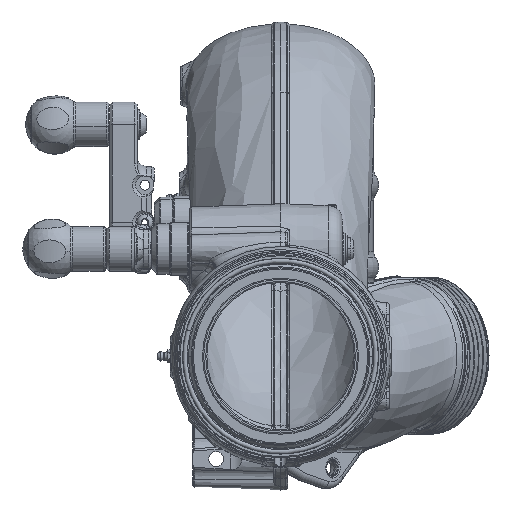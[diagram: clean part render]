
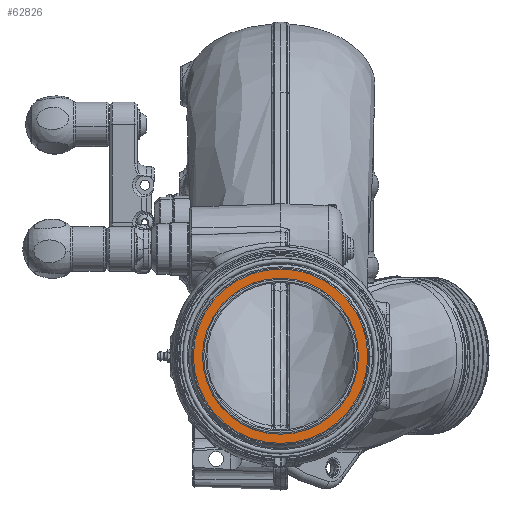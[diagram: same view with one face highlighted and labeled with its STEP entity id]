
A CAD part, front view. The second image highlights one B-rep face of the part: STEP entity #62826.
In plain terms, the highlighted planar face has unit normal (0, -1, 0).
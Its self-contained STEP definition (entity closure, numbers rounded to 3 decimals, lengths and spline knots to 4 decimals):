
#1622 = DIRECTION ( 'NONE',  ( 0., -1., 0. ) ) ;
#1706 = CARTESIAN_POINT ( 'NONE',  ( -2.3375, -8.4888, 0. ) ) ;
#6290 = DIRECTION ( 'NONE',  ( 1., 0., 0. ) ) ;
#33190 = EDGE_CURVE ( 'NONE', #70013, #84973, #118483, .T. ) ;
#33504 = CARTESIAN_POINT ( 'NONE',  ( -2.08, -8.4888, 0. ) ) ;
#34547 = DIRECTION ( 'NONE',  ( 1., 0., 0. ) ) ;
#37125 = CIRCLE ( 'NONE', #47854, 2.08 ) ;
#39320 = ORIENTED_EDGE ( 'NONE', *, *, #68936, .T. ) ;
#42453 = ORIENTED_EDGE ( 'NONE', *, *, #76039, .F. ) ;
#45008 = EDGE_LOOP ( 'NONE', ( #39320, #48705 ) ) ;
#47854 = AXIS2_PLACEMENT_3D ( 'NONE', #123716, #60041, #6290 ) ;
#48705 = ORIENTED_EDGE ( 'NONE', *, *, #33190, .T. ) ;
#52339 = CIRCLE ( 'NONE', #58997, 2.3375 ) ;
#55942 = AXIS2_PLACEMENT_3D ( 'NONE', #101092, #59309, #122042 ) ;
#56402 = CIRCLE ( 'NONE', #132444, 2.08 ) ;
#58997 = AXIS2_PLACEMENT_3D ( 'NONE', #62784, #117592, #84605 ) ;
#59309 = DIRECTION ( 'NONE',  ( 0., -1., 0. ) ) ;
#60041 = DIRECTION ( 'NONE',  ( 0., -1., 0. ) ) ;
#61768 = ORIENTED_EDGE ( 'NONE', *, *, #127494, .F. ) ;
#62784 = CARTESIAN_POINT ( 'NONE',  ( 0., -8.4888, 0. ) ) ;
#62826 = ADVANCED_FACE ( 'NONE', ( #96511, #68310 ), #89939, .T. ) ;
#64348 = VERTEX_POINT ( 'NONE', #33504 ) ;
#66535 = CARTESIAN_POINT ( 'NONE',  ( 0., -8.4888, 0. ) ) ;
#68310 = FACE_BOUND ( 'NONE', #137094, .T. ) ;
#68936 = EDGE_CURVE ( 'NONE', #84973, #70013, #52339, .T. ) ;
#70013 = VERTEX_POINT ( 'NONE', #1706 ) ;
#76039 = EDGE_CURVE ( 'NONE', #64348, #82324, #37125, .T. ) ;
#81216 = DIRECTION ( 'NONE',  ( 1., 0., 0. ) ) ;
#82324 = VERTEX_POINT ( 'NONE', #119965 ) ;
#84605 = DIRECTION ( 'NONE',  ( 1., 0., 0. ) ) ;
#84973 = VERTEX_POINT ( 'NONE', #93698 ) ;
#89939 = PLANE ( 'NONE',  #55942 ) ;
#93698 = CARTESIAN_POINT ( 'NONE',  ( 2.3375, -8.4888, 0. ) ) ;
#96511 = FACE_OUTER_BOUND ( 'NONE', #45008, .T. ) ;
#101092 = CARTESIAN_POINT ( 'NONE',  ( 0., -8.4888, 2.3375 ) ) ;
#113262 = CARTESIAN_POINT ( 'NONE',  ( 0., -8.4888, 0. ) ) ;
#117592 = DIRECTION ( 'NONE',  ( 0., -1., 0. ) ) ;
#118483 = CIRCLE ( 'NONE', #136491, 2.3375 ) ;
#119965 = CARTESIAN_POINT ( 'NONE',  ( 2.08, -8.4888, 0. ) ) ;
#122042 = DIRECTION ( 'NONE',  ( 1., 0., 0. ) ) ;
#123716 = CARTESIAN_POINT ( 'NONE',  ( 0., -8.4888, 0. ) ) ;
#123971 = DIRECTION ( 'NONE',  ( 0., -1., 0. ) ) ;
#127494 = EDGE_CURVE ( 'NONE', #82324, #64348, #56402, .T. ) ;
#132444 = AXIS2_PLACEMENT_3D ( 'NONE', #113262, #123971, #81216 ) ;
#136491 = AXIS2_PLACEMENT_3D ( 'NONE', #66535, #1622, #34547 ) ;
#137094 = EDGE_LOOP ( 'NONE', ( #61768, #42453 ) ) ;
